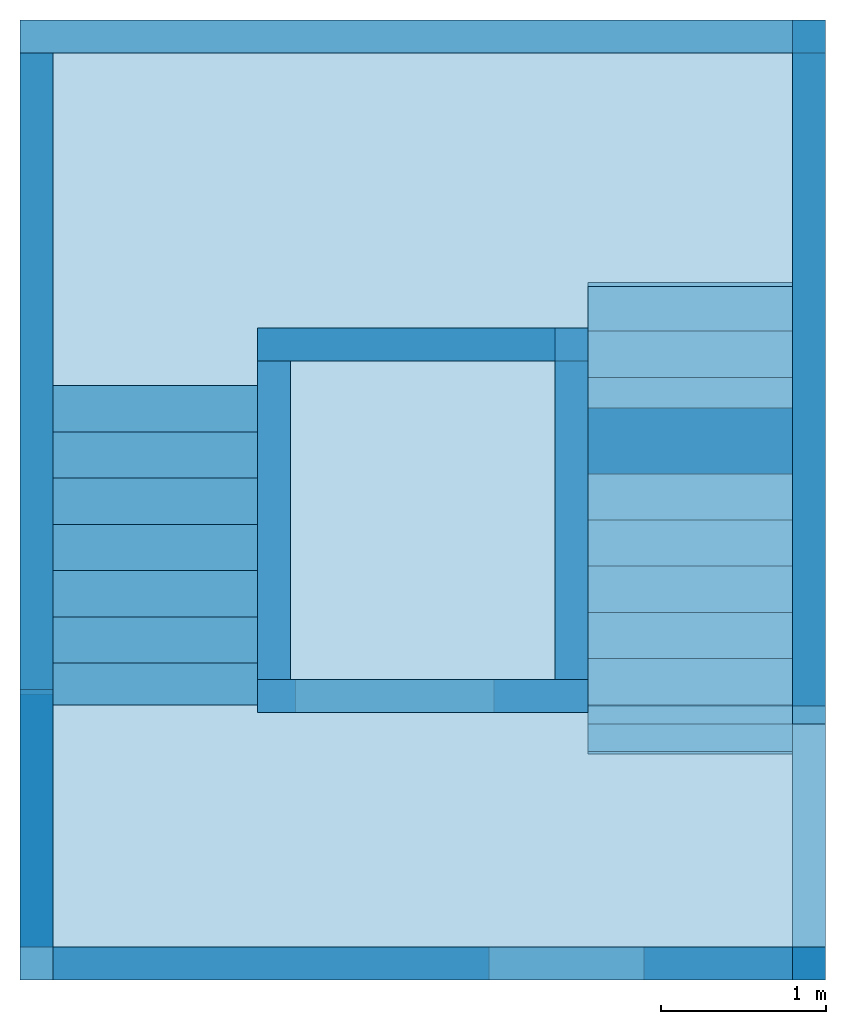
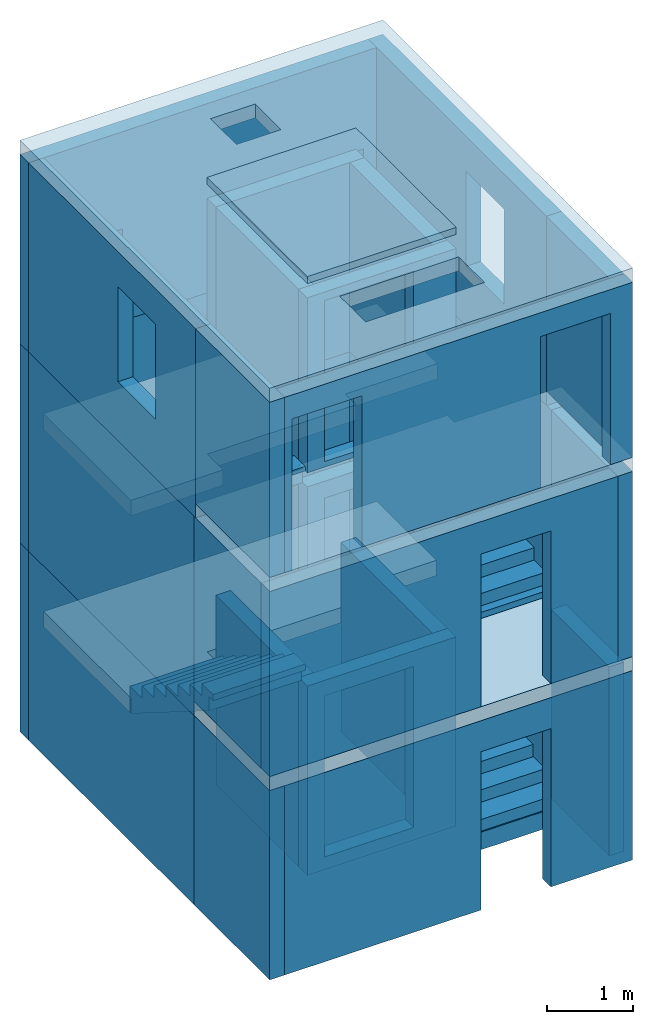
# One storey: 34 walls, 6 slabs, 16 openings.
"""IFC4 building model written with IfcOpenShell, lengths in metres."""

import ifcopenshell
import ifcopenshell.guid

model = None  # the IFC model being written
_history = None  # IfcOwnerHistory: only IFC2X3 demands one
_inside = {}  # id of a spatial element -> (the spatial element, [elements in it])
_under = {}  # id of a project, library or spatial element -> (it, [spatial elements below it])
_declared = {}  # id of a project -> (the project, [libraries it declares])
_typed = {}  # id of a type object -> (the type object, [elements of that type])
_made_of = {}  # id of a material, layer set ... -> (it, [elements and type objects made of it])


def new_model(schema):
    """Start an empty IFC model of exactly this schema.

    Asked for "IFC4X3", IfcOpenShell would pick the latest addendum, in which some entities
    have other attributes; the version numbers below select the first issue.
    IFC2X3 requires an IfcOwnerHistory on every rooted entity: one is made here for all.
    """
    global model, _history
    if schema == "IFC4X3":
        model = ifcopenshell.file(schema_version=(4, 3, 0, 0))
    else:
        model = ifcopenshell.file(schema=schema)
    _inside.clear()
    _under.clear()
    _declared.clear()
    _typed.clear()
    _made_of.clear()
    _history = None
    if model.schema == "IFC2X3":
        org = make("IfcOrganization", Name="unknown")
        user = make(
            "IfcPersonAndOrganization",
            ThePerson=make("IfcPerson", FamilyName="unknown"),
            TheOrganization=org,
        )
        app = make(
            "IfcApplication",
            ApplicationDeveloper=org,
            Version="unknown",
            ApplicationFullName="unknown",
            ApplicationIdentifier="unknown",
        )
        _history = make(
            "IfcOwnerHistory",
            OwningUser=user,
            OwningApplication=app,
            ChangeAction="ADDED",
            CreationDate=0,
        )
    return model


def make(cls, **values):
    """One entity of the class cls with the attributes given. An attribute that is None is left unset."""
    return model.create_entity(
        cls, **{name: value for name, value in values.items() if value is not None}
    )


def entity(cls, *values):
    """Any entity or typed value of the class cls, its attributes in the order of the schema. None: left unset."""
    e = model.create_entity(cls)
    for i, value in enumerate(values):
        if value is not None:
            e[i] = value
    return e


def rooted(cls, **values):
    """An entity with a GlobalId (a new one), such as an element, a storey or a relation."""
    return make(cls, GlobalId=ifcopenshell.guid.new(), OwnerHistory=_history, **values)


def si_unit(unit_type, name, prefix=None):
    """IfcSIUnit, for example si_unit("LENGTHUNIT", "METRE", prefix="MILLI")."""
    return make("IfcSIUnit", UnitType=unit_type, Prefix=prefix, Name=name)


def converted_unit(unit_type, name, factor, base, dimensions=None, offset=None):
    """IfcConversionBasedUnit, such as the inch: factor (a typed value) times the base unit."""
    return make(
        "IfcConversionBasedUnit"
        if offset is None
        else "IfcConversionBasedUnitWithOffset",
        ConversionOffset=offset,
        Dimensions=None
        if dimensions is None
        else entity("IfcDimensionalExponents", *dimensions),
        UnitType=unit_type,
        Name=name,
        ConversionFactor=make(
            "IfcMeasureWithUnit", ValueComponent=factor, UnitComponent=base
        ),
    )


def derived_unit(unit_type, elements):
    """IfcDerivedUnit: a product of units, each with its exponent."""
    return make(
        "IfcDerivedUnit",
        Elements=[
            make("IfcDerivedUnitElement", Unit=unit, Exponent=power)
            for unit, power in elements
        ],
        UnitType=unit_type,
    )


def assignment(units):
    """IfcUnitAssignment: the units of a project."""
    return None if units is None else make("IfcUnitAssignment", Units=units)


def point(xyz):
    """IfcCartesianPoint."""
    return None if xyz is None else make("IfcCartesianPoint", Coordinates=xyz)


def direction(xyz):
    """IfcDirection."""
    return None if xyz is None else make("IfcDirection", DirectionRatios=xyz)


def frame(location, z_axis=None, x_axis=None):
    """IfcAxis2Placement3D, a coordinate frame: its origin and axes. An axis left out is left unset."""
    return make(
        "IfcAxis2Placement3D",
        Location=point(location),
        Axis=direction(z_axis),
        RefDirection=direction(x_axis),
    )


def frame_2d(location, x_axis=None):
    """IfcAxis2Placement2D, a coordinate frame in the plane: its origin and x axis."""
    return make(
        "IfcAxis2Placement2D", Location=point(location), RefDirection=direction(x_axis)
    )


def origin():
    """The frame at (0, 0, 0) with its axes left unset."""
    return frame((0.0, 0.0, 0.0))


def origin_with_axes():
    """The frame at (0, 0, 0) with the z axis (0, 0, 1) and the x axis (1, 0, 0) written out."""
    return frame((0.0, 0.0, 0.0), z_axis=(0.0, 0.0, 1.0), x_axis=(1.0, 0.0, 0.0))


def place(relative_to, where):
    """IfcLocalPlacement: puts the frame where relative to a parent placement (None: the world)."""
    return make(
        "IfcLocalPlacement", PlacementRelTo=relative_to, RelativePlacement=where
    )


def context(
    kind, dimensions, precision=None, world=None, true_north=None, identifier=None
):
    """IfcGeometricRepresentationContext, for example the 3D "Model" context."""
    return make(
        "IfcGeometricRepresentationContext",
        ContextIdentifier=identifier,
        ContextType=kind,
        CoordinateSpaceDimension=dimensions,
        Precision=precision,
        WorldCoordinateSystem=world,
        TrueNorth=true_north,
    )


def subcontext(parent, identifier, kind, view, scale=None):
    """IfcGeometricRepresentationSubContext, for example "Body" below "Model"."""
    return make(
        "IfcGeometricRepresentationSubContext",
        ContextIdentifier=identifier,
        ContextType=kind,
        ParentContext=parent,
        TargetScale=scale,
        TargetView=view,
    )


def project(units=None, contexts=None):
    """IfcProject with its units and contexts."""
    return rooted(
        "IfcProject",
        Name="project",
        RepresentationContexts=contexts,
        UnitsInContext=assignment(units),
    )


def spatial(cls, under=None, at=None, **own):
    """A site, building, storey or space (cls), placed at a placement, below another one or the project."""
    s = rooted(cls, ObjectPlacement=at, **own)
    if under is not None:
        _under.setdefault(under.id(), (under, []))[1].append(s)
    return s


def polyline(points):
    """IfcPolyline through the points."""
    return make("IfcPolyline", Points=[point(p) for p in points])


def profile(cls, at=None, kind="AREA", **sizes):
    """A parametric profile (cls). Its sizes go by their IFC names, for example OverallWidth=200.0."""
    return make(cls, ProfileType=kind, Position=at, **sizes)


def rectangle(**sizes):
    """IfcRectangleProfileDef."""
    return profile("IfcRectangleProfileDef", **sizes)


def outline(outer, holes=None, kind="AREA"):
    """IfcArbitraryClosedProfileDef: a profile drawn as a closed curve; with holes, ...WithVoids."""
    if holes is None:
        return make("IfcArbitraryClosedProfileDef", ProfileType=kind, OuterCurve=outer)
    return make(
        "IfcArbitraryProfileDefWithVoids",
        ProfileType=kind,
        OuterCurve=outer,
        InnerCurves=holes,
    )


def extrude(swept, where, along, depth):
    """IfcExtrudedAreaSolid: the profile swept, set in the frame where, extruded along a direction by depth."""
    return make(
        "IfcExtrudedAreaSolid",
        SweptArea=swept,
        Position=where,
        ExtrudedDirection=direction(along),
        Depth=depth,
    )


def shape(context_of_items, identifier, shape_type, items):
    """IfcShapeRepresentation: the items that make up one representation, for example the "Body"."""
    return make(
        "IfcShapeRepresentation",
        ContextOfItems=context_of_items,
        RepresentationIdentifier=identifier,
        RepresentationType=shape_type,
        Items=items,
    )


def material(Name=None, Category=None):
    """IfcMaterial."""
    return make("IfcMaterial", Name=Name, Category=Category)


def layer(
    of_material, thickness, ventilated=None, Name=None, Category=None, Priority=None
):
    """IfcMaterialLayer: one layer of a wall or slab, of a material (None: an air gap)."""
    return make(
        "IfcMaterialLayer",
        Material=of_material,
        LayerThickness=thickness,
        IsVentilated=ventilated,
        Name=Name,
        Category=Category,
        Priority=Priority,
    )


def layer_set(layers, Name=None):
    """IfcMaterialLayerSet."""
    return make("IfcMaterialLayerSet", MaterialLayers=layers, LayerSetName=Name)


def layer_usage(for_layer_set, set_direction, sense, offset, extent=None):
    """IfcMaterialLayerSetUsage: how a layer set lies in its element."""
    return make(
        "IfcMaterialLayerSetUsage",
        ForLayerSet=for_layer_set,
        LayerSetDirection=set_direction,
        DirectionSense=sense,
        OffsetFromReferenceLine=offset,
        ReferenceExtent=extent,
    )


def made_of(thing, what):
    """Note that an element or type object is made of a material, layer set ...; save() writes the relation."""
    if what is not None:
        _made_of.setdefault(what.id(), (what, []))[1].append(thing)
    return thing


def element(
    cls,
    number,
    at=None,
    inside=None,
    cuts=None,
    type_object=None,
    material=None,
    context=None,
    identifier="Body",
    shape_type=None,
    held_by="IfcProductDefinitionShape",
    body=None,
    shapes=None,
    **own,
):
    """One element of the class cls, such as IfcWall. Its Tag is "e" and its number.

    at: its placement. inside: the storey or other place that contains it. cuts: it is an
    opening in that element (IfcRelVoidsElement). A single representation is given by context,
    identifier, shape_type and body (its items); several are given by shapes. held_by: the class
    of the entity that holds the representations. save() writes the other relations.
    """
    e = rooted(cls, Tag="e%d" % number, ObjectPlacement=at, **own)
    if body is not None:
        shapes = [shape(context, identifier, shape_type, body)]
    if shapes is not None:
        e.Representation = make(held_by, Representations=shapes)
    if inside is not None:
        _inside.setdefault(inside.id(), (inside, []))[1].append(e)
    if cuts is not None:
        rooted(
            "IfcRelVoidsElement", RelatingBuildingElement=cuts, RelatedOpeningElement=e
        )
    if type_object is not None:
        _typed.setdefault(type_object.id(), (type_object, []))[1].append(e)
    return made_of(e, material)


def aggregate(whole, parts):
    """IfcRelAggregates: a whole, such as a stair, and the parts it consists of."""
    return rooted("IfcRelAggregates", RelatingObject=whole, RelatedObjects=parts)


def save(model, path):
    """Write the relations noted so far, then the file.

    IfcRelAggregates (storeys below a building ...), IfcRelContainedInSpatialStructure (elements
    in a storey), IfcRelDefinesByType, IfcRelAssociatesMaterial and IfcRelDeclares: one each for
    every whole, place, type object, material and project.
    """
    for whole, parts in _under.values():
        aggregate(whole, parts)
    for where, things in _inside.values():
        rooted(
            "IfcRelContainedInSpatialStructure",
            RelatedElements=things,
            RelatingStructure=where,
        )
    for kind, things in _typed.values():
        rooted("IfcRelDefinesByType", RelatedObjects=things, RelatingType=kind)
    for what, things in _made_of.values():
        rooted("IfcRelAssociatesMaterial", RelatedObjects=things, RelatingMaterial=what)
    for by, libraries in _declared.values():
        rooted("IfcRelDeclares", RelatingContext=by, RelatedDefinitions=libraries)
    model.write(path)


model = new_model("IFC4")

# Units and contexts
model_context = context("Model", 3, precision=1e-05, world=origin())
body_context = subcontext(model_context, "Body", "Model", "MODEL_VIEW")
ifc_project = project(units=[si_unit("LENGTHUNIT", "METRE"), si_unit("AREAUNIT", "SQUARE_METRE"), si_unit("VOLUMEUNIT", "CUBIC_METRE"), si_unit("MASSUNIT", "GRAM", prefix="KILO"), converted_unit("PLANEANGLEUNIT", "DEGREE", entity("IfcPlaneAngleMeasure", 0.0174532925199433), si_unit("PLANEANGLEUNIT", "RADIAN"), dimensions=[0, 0, 0, 0, 0, 0, 0]), derived_unit("THERMALTRANSMITTANCEUNIT", [(si_unit("POWERUNIT", "WATT"), 1), (si_unit("THERMODYNAMICTEMPERATUREUNIT", "KELVIN"), -1), (si_unit("LENGTHUNIT", "METRE"), -2)]), derived_unit("VOLUMETRICFLOWRATEUNIT", [(si_unit("LENGTHUNIT", "METRE"), 3), (converted_unit("TIMEUNIT", "hour", entity("IfcTimeMeasure", 3600.0), si_unit("TIMEUNIT", "SECOND"), dimensions=[0, 0, 1, 0, 0, 0, 0]), -1), (si_unit("LENGTHUNIT", "METRE"), -1)])], contexts=[model_context])

# Site, building, storey
site_placement = place(None, origin())
site = spatial("IfcSite", under=ifc_project, at=site_placement, Name="Überbauung", CompositionType="ELEMENT")
building_placement = place(site_placement, origin())
building = spatial("IfcBuilding", under=site, at=building_placement, Name="Gebäude A", CompositionType="ELEMENT")
storey_placement = place(building_placement, origin())
storey = spatial("IfcBuildingStorey", under=building, at=storey_placement, Name="Fundation & Aushub", CompositionType="ELEMENT", Elevation=0.0)

# Slabs
ifc_material_1 = material(Name="Beton")
slab_1_placement = place(storey_placement, frame((10.0117697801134, 6.07350369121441, 2.52)))
element("IfcSlab", 1, at=slab_1_placement, inside=storey, material=ifc_material_1, PredefinedType="FLOOR", context=body_context, shape_type="SweptSolid", body=[
    extrude(outline(polyline([(3.44, 1.82), (1.44, 1.82), (1.44, 1.75835), (0.0, 1.75835), (0.0, 0.0), (4.88, 0.0), (4.88, 1.55), (3.44, 1.55), (3.44, 1.82)])), origin_with_axes(), (0.0, 0.0, 1.0), 0.2),
])
ifc_material_2 = material(Name="Beton")
slab_2_placement = place(storey_placement, frame((10.2117697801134, 9.66845369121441, 1.375)))
element("IfcSlab", 2, at=slab_2_placement, inside=storey, material=ifc_material_2, PredefinedType="FLOOR", context=body_context, shape_type="SweptSolid", body=[
    extrude(outline(polyline([(3.24, 0.62874), (4.48, 0.62874), (4.48, 2.02005), (0.0, 2.02005), (0.0, 0.0), (1.24, 0.0), (1.24, 0.355049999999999), (3.24, 0.355049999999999), (3.24, 0.62874)])), origin_with_axes(), (0.0, 0.0, 1.0), 0.22),
])
ifc_material_3 = material(Name="Beton")
slab_3_placement = place(storey_placement, frame((10.2117697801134, 9.65345369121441, 4.185)))
element("IfcSlab", 3, at=slab_3_placement, inside=storey, material=ifc_material_3, PredefinedType="FLOOR", context=body_context, shape_type="SweptSolid", body=[
    extrude(outline(polyline([(0.0, 2.03505), (0.0, 0.0), (1.24, 0.0), (1.24, 0.370049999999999), (3.24, 0.370049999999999), (3.24, 0.620049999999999), (4.48, 0.620049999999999), (4.48, 2.03505), (0.0, 2.03505)])), origin_with_axes(), (0.0, 0.0, 1.0), 0.22),
])
ifc_material_4 = material(Name="Beton")
slab_4_placement = place(storey_placement, frame((10.0117697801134, 6.07350369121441, 5.35)))
element("IfcSlab", 4, at=slab_4_placement, inside=storey, material=ifc_material_4, PredefinedType="FLOOR", context=body_context, shape_type="SweptSolid", body=[
    extrude(outline(polyline([(0.0, 1.72654), (0.0, 0.0), (4.88, 0.0), (4.88, 1.66), (3.44, 1.66), (3.44, 1.82), (1.44, 1.82), (1.44, 1.72654), (0.0, 1.72654)])), origin_with_axes(), (0.0, 0.0, 1.0), 0.2),
])
ifc_material_5 = material(Name="Beton")
slab_5_placement = place(storey_placement, frame((10.0117697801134, 6.07350369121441, 8.04)))
element("IfcSlab", 5, at=slab_5_placement, inside=storey, material=ifc_material_5, PredefinedType="FLOOR", context=body_context, shape_type="SweptSolid", body=[
    extrude(outline(polyline([(4.88, 5.815), (0.0, 5.815), (0.0, 0.0), (4.88, 0.0), (4.88, 5.815)]), holes=[polyline([(3.24, 1.82), (1.64, 1.82), (1.64, 3.75), (3.24, 3.75), (3.24, 1.82)]), polyline([(3.24, 0.61), (1.64, 0.61), (1.64, 1.21), (3.24, 1.21), (3.24, 0.61)]), polyline([(2.14, 4.4825), (2.14, 5.0825), (2.74, 5.0825), (2.74, 4.4825), (2.14, 4.4825)])]), origin_with_axes(), (0.0, 0.0, 1.0), 0.2),
])
ifc_material_6 = material(Name="Beton")
slab_6_placement = place(storey_placement, frame((11.4517697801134, 7.69350369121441, 8.14)))
element("IfcSlab", 6, at=slab_6_placement, inside=storey, material=ifc_material_6, PredefinedType="FLOOR", context=body_context, shape_type="SweptSolid", body=[
    extrude(rectangle(XDim=2.33, YDim=2.0, at=frame_2d((1.0, -1.165), x_axis=(0.0, -1.0))), frame((0.0, 2.33, 0.0), z_axis=(0.0, 0.0, 1.0), x_axis=(1.0, 0.0, 0.0)), (0.0, 0.0, 1.0), 0.2),
])

# Walls
ifc_material_7 = material(Name="Beton")
ifc_layer_1 = layer(ifc_material_7, 0.2)
ifc_layer_set_1 = layer_set([ifc_layer_1])
ifc_layer_usage_1 = layer_usage(ifc_layer_set_1, "AXIS2", "POSITIVE", 0.0)
wall_1_placement = place(storey_placement, frame((10.0117697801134, 7.83185369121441, -0.17), z_axis=(0.0, 0.0, 1.0), x_axis=(0.0, -1.0, 0.0)))
element("IfcWall", 7, at=wall_1_placement, inside=storey, material=ifc_layer_usage_1, context=body_context, shape_type="SweptSolid", body=[
    extrude(rectangle(XDim=1.75835, YDim=0.2, at=frame_2d((0.879175, 0.1), x_axis=(1.0, 0.0))), origin_with_axes(), (0.0, 0.0, 1.0), 2.69),
])
ifc_material_8 = material(Name="Beton")
ifc_layer_2 = layer(ifc_material_8, 0.2)
ifc_layer_set_2 = layer_set([ifc_layer_2])
ifc_layer_usage_2 = layer_usage(ifc_layer_set_2, "AXIS2", "POSITIVE", 0.0)
wall_2_placement = place(storey_placement, frame((10.0117697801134, 11.6885036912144, -0.17), z_axis=(0.0, 0.0, 1.0), x_axis=(0.0, -1.0, 0.0)))
element("IfcWall", 8, at=wall_2_placement, inside=storey, material=ifc_layer_usage_2, context=body_context, shape_type="SweptSolid", body=[
    extrude(rectangle(XDim=3.85665, YDim=0.2, at=frame_2d((1.928325, 0.1), x_axis=(1.0, 0.0))), origin_with_axes(), (0.0, 0.0, 1.0), 2.69),
])

# Wall, opening
ifc_material_9 = material(Name="Beton")
ifc_layer_3 = layer(ifc_material_9, 0.2)
ifc_layer_set_3 = layer_set([ifc_layer_3])
ifc_layer_usage_3 = layer_usage(ifc_layer_set_3, "AXIS2", "POSITIVE", 0.0)
wall_3_placement = place(storey_placement, frame((10.2117697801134, 6.07350369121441, -0.17)))
wall_3 = element("IfcWall", 9, at=wall_3_placement, inside=storey, material=ifc_layer_usage_3, context=body_context, shape_type="SweptSolid", body=[
    extrude(rectangle(XDim=4.68, YDim=0.2, at=frame_2d((2.34, 0.1), x_axis=(1.0, 0.0))), origin_with_axes(), (0.0, 0.0, 1.0), 2.69),
])
opening_1_placement = place(wall_3_placement, frame((2.64, 0.0, 0.0), z_axis=(0.0, 1.0, 0.0), x_axis=(0.0, 0.0, 1.0)))
element("IfcOpeningElement", 10, at=opening_1_placement, cuts=wall_3, Name="Türöffnung", ObjectType="Opening", context=body_context, shape_type="SweptSolid", body=[
    extrude(outline(polyline([(0.0, 0.94), (2.25, 0.94), (2.25, 0.0), (0.0, 0.0), (0.0, 0.94)])), origin_with_axes(), (0.0, 0.0, 1.0), 0.2),
])

# Walls
ifc_material_10 = material(Name="Beton")
ifc_layer_4 = layer(ifc_material_10, 0.2)
ifc_layer_set_4 = layer_set([ifc_layer_4])
ifc_layer_usage_4 = layer_usage(ifc_layer_set_4, "AXIS2", "POSITIVE", 0.0)
wall_4_placement = place(storey_placement, frame((14.8917697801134, 7.62350369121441, -0.17), z_axis=(0.0, 0.0, 1.0), x_axis=(0.0, 1.0, 0.0)))
element("IfcWall", 11, at=wall_4_placement, inside=storey, material=ifc_layer_usage_4, context=body_context, shape_type="SweptSolid", body=[
    extrude(rectangle(XDim=4.065, YDim=0.2, at=frame_2d((2.0325, 0.1), x_axis=(1.0, 0.0))), origin_with_axes(), (0.0, 0.0, 1.0), 2.69),
])
ifc_material_11 = material(Name="Beton")
ifc_layer_5 = layer(ifc_material_11, 0.2)
ifc_layer_set_5 = layer_set([ifc_layer_5])
ifc_layer_usage_5 = layer_usage(ifc_layer_set_5, "AXIS2", "POSITIVE", 0.0)
wall_5_placement = place(storey_placement, frame((14.8917697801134, 6.27350369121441, -0.17), z_axis=(0.0, 0.0, 1.0), x_axis=(0.0, 1.0, 0.0)))
element("IfcWall", 12, at=wall_5_placement, inside=storey, material=ifc_layer_usage_5, context=body_context, shape_type="SweptSolid", body=[
    extrude(rectangle(XDim=1.35, YDim=0.2, at=frame_2d((0.675, 0.1), x_axis=(1.0, 0.0))), origin_with_axes(), (0.0, 0.0, 1.0), 2.69),
])

# Wall, openings
ifc_material_12 = material(Name="Beton")
ifc_layer_6 = layer(ifc_material_12, 0.2)
ifc_layer_set_6 = layer_set([ifc_layer_6])
ifc_layer_usage_6 = layer_usage(ifc_layer_set_6, "AXIS2", "POSITIVE", 0.0)
wall_6_placement = place(storey_placement, frame((10.0117697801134, 11.6885036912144, -0.17)))
wall_6 = element("IfcWall", 13, at=wall_6_placement, inside=storey, material=ifc_layer_usage_6, context=body_context, shape_type="SweptSolid", body=[
    extrude(rectangle(XDim=4.88, YDim=0.2, at=frame_2d((2.44, 0.1), x_axis=(1.0, 0.0))), origin_with_axes(), (0.0, 0.0, 1.0), 2.69),
])
opening_2_placement = place(wall_6_placement, frame((1.805, 0.0, 0.0), z_axis=(0.0, 1.0, 0.0), x_axis=(0.0, 0.0, 1.0)))
element("IfcOpeningElement", 14, at=opening_2_placement, cuts=wall_6, Name="Türöffnung", ObjectType="Opening", context=body_context, shape_type="SweptSolid", body=[
    extrude(outline(polyline([(0.0, 1.27), (1.33, 1.27), (1.33, 0.0), (0.0, 0.0), (0.0, 1.27)])), origin_with_axes(), (0.0, 0.0, 1.0), 0.2),
])
opening_3_placement = place(wall_6_placement, frame((3.62, 0.0, 0.0), z_axis=(0.0, 1.0, 0.0), x_axis=(0.0, 0.0, 1.0)))
element("IfcOpeningElement", 15, at=opening_3_placement, cuts=wall_6, Name="Türöffnung", ObjectType="Opening", context=body_context, shape_type="SweptSolid", body=[
    extrude(outline(polyline([(0.0, 0.88), (1.3, 0.88), (1.3, 0.0), (0.0, 0.0), (0.0, 0.88)])), origin_with_axes(), (0.0, 0.0, 1.0), 0.2),
])

# Walls
ifc_material_13 = material(Name="Beton")
ifc_layer_7 = layer(ifc_material_13, 0.2)
ifc_layer_set_7 = layer_set([ifc_layer_7])
ifc_layer_usage_7 = layer_usage(ifc_layer_set_7, "AXIS2", "POSITIVE", 0.0)
wall_7_placement = place(storey_placement, frame((11.4517697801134, 9.82350369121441, -0.17), z_axis=(0.0, 0.0, 1.0), x_axis=(0.0, -1.0, 0.0)))
element("IfcWall", 16, at=wall_7_placement, inside=storey, material=ifc_layer_usage_7, context=body_context, shape_type="SweptSolid", body=[
    extrude(rectangle(XDim=1.93, YDim=0.2, at=frame_2d((0.965, 0.1), x_axis=(1.0, 0.0))), origin_with_axes(), (0.0, 0.0, 1.0), 2.69),
])
ifc_material_14 = material(Name="Beton")
ifc_layer_8 = layer(ifc_material_14, 0.2)
ifc_layer_set_8 = layer_set([ifc_layer_8])
ifc_layer_usage_8 = layer_usage(ifc_layer_set_8, "AXIS2", "POSITIVE", 0.0)
wall_8_placement = place(storey_placement, frame((13.4517697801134, 7.89350369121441, -0.17), z_axis=(0.0, 0.0, 1.0), x_axis=(0.0, 1.0, 0.0)))
element("IfcWall", 17, at=wall_8_placement, inside=storey, material=ifc_layer_usage_8, context=body_context, shape_type="SweptSolid", body=[
    extrude(rectangle(XDim=2.13, YDim=0.2, at=frame_2d((1.065, 0.1), x_axis=(1.0, 0.0))), origin_with_axes(), (0.0, 0.0, 1.0), 2.69),
])

# Wall, opening
ifc_material_15 = material(Name="Beton")
ifc_layer_9 = layer(ifc_material_15, 0.2)
ifc_layer_set_9 = layer_set([ifc_layer_9])
ifc_layer_usage_9 = layer_usage(ifc_layer_set_9, "AXIS2", "POSITIVE", 0.0)
wall_9_placement = place(storey_placement, frame((11.4517697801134, 7.69350369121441, -0.17)))
wall_9 = element("IfcWall", 18, at=wall_9_placement, inside=storey, material=ifc_layer_usage_9, context=body_context, shape_type="SweptSolid", body=[
    extrude(rectangle(XDim=2.0, YDim=0.2, at=frame_2d((1.0, 0.1), x_axis=(1.0, 0.0))), origin_with_axes(), (0.0, 0.0, 1.0), 2.69),
])
opening_4_placement = place(wall_9_placement, frame((0.23, 0.0, 0.18), z_axis=(0.0, 1.0, 0.0), x_axis=(0.0, 0.0, 1.0)))
element("IfcOpeningElement", 19, at=opening_4_placement, cuts=wall_9, Name="Türöffnung", ObjectType="Opening", context=body_context, shape_type="SweptSolid", body=[
    extrude(outline(polyline([(0.0, 1.2), (2.29, 1.2), (2.29, 0.0), (0.0, 0.0), (0.0, 1.2)])), origin_with_axes(), (0.0, 0.0, 1.0), 0.2),
])

ifc_material_16 = material(Name="Beton")
ifc_layer_10 = layer(ifc_material_16, 0.2)
ifc_layer_set_10 = layer_set([ifc_layer_10])
ifc_layer_usage_10 = layer_usage(ifc_layer_set_10, "AXIS2", "POSITIVE", 0.0)
wall_10_placement = place(storey_placement, frame((13.2517697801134, 10.0235036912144, -0.17), z_axis=(0.0, 0.0, 1.0), x_axis=(-1.0, 0.0, 0.0)))
wall_10 = element("IfcWall", 20, at=wall_10_placement, inside=storey, material=ifc_layer_usage_10, context=body_context, shape_type="SweptSolid", body=[
    extrude(rectangle(XDim=1.8, YDim=0.2, at=frame_2d((0.9, 0.1), x_axis=(1.0, 0.0))), origin_with_axes(), (0.0, 0.0, 1.0), 2.69),
])
opening_5_placement = place(wall_10_placement, frame((1.57, 0.2, 0.0), z_axis=(0.0, -1.0, 0.0), x_axis=(0.0, 0.0, 1.0)))
element("IfcOpeningElement", 21, at=opening_5_placement, cuts=wall_10, Name="Türöffnung", ObjectType="Opening", context=body_context, shape_type="SweptSolid", body=[
    extrude(outline(polyline([(0.0, 1.2), (1.38, 1.2), (1.38, 0.0), (0.0, 0.0), (0.0, 1.2)])), origin_with_axes(), (0.0, 0.0, 1.0), 0.2),
])

ifc_material_17 = material(Name="Beton")
ifc_layer_11 = layer(ifc_material_17, 0.2)
ifc_layer_set_11 = layer_set([ifc_layer_11])
ifc_layer_usage_11 = layer_usage(ifc_layer_set_11, "AXIS2", "POSITIVE", 0.0)
wall_11_placement = place(storey_placement, frame((11.4517697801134, 7.69350369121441, 2.52)))
wall_11 = element("IfcWall", 22, at=wall_11_placement, inside=storey, material=ifc_layer_usage_11, context=body_context, shape_type="SweptSolid", body=[
    extrude(rectangle(XDim=2.0, YDim=0.2, at=frame_2d((1.0, 0.1), x_axis=(1.0, 0.0))), origin_with_axes(), (0.0, 0.0, 1.0), 2.83),
])
opening_6_placement = place(wall_11_placement, frame((0.23, 0.0, 0.3), z_axis=(0.0, 1.0, 0.0), x_axis=(0.0, 0.0, 1.0)))
element("IfcOpeningElement", 23, at=opening_6_placement, cuts=wall_11, Name="Türöffnung", ObjectType="Opening", context=body_context, shape_type="SweptSolid", body=[
    extrude(outline(polyline([(0.0, 1.2), (2.29, 1.2), (2.29, 0.0), (0.0, 0.0), (0.0, 1.2)])), origin_with_axes(), (0.0, 0.0, 1.0), 0.2),
])

# Wall, openings
ifc_material_18 = material(Name="Beton")
ifc_layer_12 = layer(ifc_material_18, 0.2)
ifc_layer_set_12 = layer_set([ifc_layer_12])
ifc_layer_usage_12 = layer_usage(ifc_layer_set_12, "AXIS2", "POSITIVE", 0.0)
wall_12_placement = place(storey_placement, frame((14.8917697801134, 11.8885036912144, 2.52), z_axis=(0.0, 0.0, 1.0), x_axis=(-1.0, 0.0, 0.0)))
wall_12 = element("IfcWall", 24, at=wall_12_placement, inside=storey, material=ifc_layer_usage_12, context=body_context, shape_type="SweptSolid", body=[
    extrude(rectangle(XDim=4.88, YDim=0.2, at=frame_2d((2.44, 0.1), x_axis=(1.0, 0.0))), origin_with_axes(), (0.0, 0.0, 1.0), 2.83),
])
opening_7_placement = place(wall_12_placement, frame((1.26, 0.2, 0.0), z_axis=(0.0, -1.0, 0.0), x_axis=(0.0, 0.0, 1.0)))
element("IfcOpeningElement", 25, at=opening_7_placement, cuts=wall_12, Name="Türöffnung", ObjectType="Opening", context=body_context, shape_type="SweptSolid", body=[
    extrude(outline(polyline([(0.0, 0.88), (1.33, 0.88), (1.33, 0.0), (0.0, 0.0), (0.0, 0.88)])), origin_with_axes(), (0.0, 0.0, 1.0), 0.2),
])
opening_8_placement = place(wall_12_placement, frame((4.5, 0.2, 0.0), z_axis=(0.0, -1.0, 0.0), x_axis=(0.0, 0.0, 1.0)))
element("IfcOpeningElement", 26, at=opening_8_placement, cuts=wall_12, Name="Türöffnung", ObjectType="Opening", context=body_context, shape_type="SweptSolid", body=[
    extrude(outline(polyline([(0.0, 0.88), (1.33, 0.88), (1.33, 0.0), (0.0, 0.0), (0.0, 0.88)])), origin_with_axes(), (0.0, 0.0, 1.0), 0.2),
])

# Walls
ifc_material_19 = material(Name="Beton")
ifc_layer_13 = layer(ifc_material_19, 0.2)
ifc_layer_set_13 = layer_set([ifc_layer_13])
ifc_layer_usage_13 = layer_usage(ifc_layer_set_13, "AXIS2", "POSITIVE", 0.0)
wall_13_placement = place(storey_placement, frame((13.4517697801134, 10.0235036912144, 2.52), z_axis=(0.0, 0.0, 1.0), x_axis=(-1.0, 0.0, 0.0)))
element("IfcWall", 27, at=wall_13_placement, inside=storey, material=ifc_layer_usage_13, context=body_context, shape_type="SweptSolid", body=[
    extrude(rectangle(XDim=2.0, YDim=0.2, at=frame_2d((1.0, 0.1), x_axis=(1.0, 0.0))), origin_with_axes(), (0.0, 0.0, 1.0), 2.83),
])
ifc_material_20 = material(Name="Beton")
ifc_layer_14 = layer(ifc_material_20, 0.2)
ifc_layer_set_14 = layer_set([ifc_layer_14])
ifc_layer_usage_14 = layer_usage(ifc_layer_set_14, "AXIS2", "POSITIVE", 0.0)
wall_14_placement = place(storey_placement, frame((11.4517697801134, 9.82350369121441, 2.52), z_axis=(0.0, 0.0, 1.0), x_axis=(0.0, -1.0, 0.0)))
element("IfcWall", 28, at=wall_14_placement, inside=storey, material=ifc_layer_usage_14, context=body_context, shape_type="SweptSolid", body=[
    extrude(rectangle(XDim=1.93, YDim=0.2, at=frame_2d((0.965, 0.1), x_axis=(1.0, 0.0))), origin_with_axes(), (0.0, 0.0, 1.0), 2.83),
])
ifc_material_21 = material(Name="Beton")
ifc_layer_15 = layer(ifc_material_21, 0.2)
ifc_layer_set_15 = layer_set([ifc_layer_15])
ifc_layer_usage_15 = layer_usage(ifc_layer_set_15, "AXIS2", "POSITIVE", 0.0)
wall_15_placement = place(storey_placement, frame((13.4517697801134, 7.89350369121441, 2.52), z_axis=(0.0, 0.0, 1.0), x_axis=(0.0, 1.0, 0.0)))
element("IfcWall", 29, at=wall_15_placement, inside=storey, material=ifc_layer_usage_15, context=body_context, shape_type="SweptSolid", body=[
    extrude(rectangle(XDim=1.93, YDim=0.2, at=frame_2d((0.965, 0.1), x_axis=(1.0, 0.0))), origin_with_axes(), (0.0, 0.0, 1.0), 2.83),
])

# Wall, opening
ifc_material_22 = material(Name="Beton")
ifc_layer_16 = layer(ifc_material_22, 0.2)
ifc_layer_set_16 = layer_set([ifc_layer_16])
ifc_layer_usage_16 = layer_usage(ifc_layer_set_16, "AXIS2", "POSITIVE", 0.0)
wall_16_placement = place(storey_placement, frame((10.0117697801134, 6.07350369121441, 2.72)))
wall_16 = element("IfcWall", 30, at=wall_16_placement, inside=storey, material=ifc_layer_usage_16, context=body_context, shape_type="SweptSolid", body=[
    extrude(rectangle(XDim=4.68, YDim=0.2, at=frame_2d((2.34, 0.1), x_axis=(1.0, 0.0))), origin_with_axes(), (0.0, 0.0, 1.0), 2.63),
])
opening_9_placement = place(wall_16_placement, frame((3.78, 0.2, 0.0), z_axis=(0.0, -1.0, 0.0), x_axis=(0.0, 0.0, 1.0)))
element("IfcOpeningElement", 31, at=opening_9_placement, cuts=wall_16, Name="Türöffnung", ObjectType="Opening", context=body_context, shape_type="SweptSolid", body=[
    extrude(outline(polyline([(0.0, 0.94), (2.17, 0.94), (2.17, 0.0), (0.0, 0.0), (0.0, 0.94)])), origin_with_axes(), (0.0, 0.0, 1.0), 0.2),
])

# Walls
ifc_material_23 = material(Name="Beton")
ifc_layer_17 = layer(ifc_material_23, 0.2)
ifc_layer_set_17 = layer_set([ifc_layer_17])
ifc_layer_usage_17 = layer_usage(ifc_layer_set_17, "AXIS2", "POSITIVE", 0.0)
wall_17_placement = place(storey_placement, frame((10.0117697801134, 11.6885036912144, 2.52), z_axis=(0.0, 0.0, 1.0), x_axis=(0.0, -1.0, 0.0)))
element("IfcWall", 32, at=wall_17_placement, inside=storey, material=ifc_layer_usage_17, context=body_context, shape_type="SweptSolid", body=[
    extrude(rectangle(XDim=3.85665, YDim=0.2, at=frame_2d((1.928325, 0.1), x_axis=(1.0, 0.0))), origin_with_axes(), (0.0, 0.0, 1.0), 2.83),
])
ifc_material_24 = material(Name="Beton")
ifc_layer_18 = layer(ifc_material_24, 0.2)
ifc_layer_set_18 = layer_set([ifc_layer_18])
ifc_layer_usage_18 = layer_usage(ifc_layer_set_18, "AXIS2", "POSITIVE", 0.0)
wall_18_placement = place(storey_placement, frame((10.0117697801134, 7.83185369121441, 2.72), z_axis=(0.0, 0.0, 1.0), x_axis=(0.0, -1.0, 0.0)))
element("IfcWall", 33, at=wall_18_placement, inside=storey, material=ifc_layer_usage_18, context=body_context, shape_type="SweptSolid", body=[
    extrude(rectangle(XDim=1.55835, YDim=0.2, at=frame_2d((0.779175, 0.1), x_axis=(1.0, 0.0))), origin_with_axes(), (0.0, 0.0, 1.0), 2.63),
])
ifc_material_25 = material(Name="Beton")
ifc_layer_19 = layer(ifc_material_25, 0.2)
ifc_layer_set_19 = layer_set([ifc_layer_19])
ifc_layer_usage_19 = layer_usage(ifc_layer_set_19, "AXIS2", "POSITIVE", 0.0)
wall_19_placement = place(storey_placement, frame((14.8917697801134, 7.62350369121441, 2.52), z_axis=(0.0, 0.0, 1.0), x_axis=(0.0, 1.0, 0.0)))
element("IfcWall", 34, at=wall_19_placement, inside=storey, material=ifc_layer_usage_19, context=body_context, shape_type="SweptSolid", body=[
    extrude(rectangle(XDim=4.065, YDim=0.2, at=frame_2d((2.0325, 0.1), x_axis=(1.0, 0.0))), origin_with_axes(), (0.0, 0.0, 1.0), 2.83),
])
ifc_material_26 = material(Name="Beton")
ifc_layer_20 = layer(ifc_material_26, 0.2)
ifc_layer_set_20 = layer_set([ifc_layer_20])
ifc_layer_usage_20 = layer_usage(ifc_layer_set_20, "AXIS2", "POSITIVE", 0.0)
wall_20_placement = place(storey_placement, frame((14.8917697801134, 6.07350369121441, 2.72), z_axis=(0.0, 0.0, 1.0), x_axis=(0.0, 1.0, 0.0)))
element("IfcWall", 35, at=wall_20_placement, inside=storey, material=ifc_layer_usage_20, context=body_context, shape_type="SweptSolid", body=[
    extrude(rectangle(XDim=1.55, YDim=0.2, at=frame_2d((0.775, 0.1), x_axis=(1.0, 0.0))), origin_with_axes(), (0.0, 0.0, 1.0), 2.63),
])

# Wall, openings
ifc_material_27 = material(Name="Beton")
ifc_layer_21 = layer(ifc_material_27, 0.2)
ifc_layer_set_21 = layer_set([ifc_layer_21])
ifc_layer_usage_21 = layer_usage(ifc_layer_set_21, "AXIS2", "POSITIVE", 0.0)
wall_21_placement = place(storey_placement, frame((10.0117697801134, 11.6885036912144, 5.35)))
wall_21 = element("IfcWall", 36, at=wall_21_placement, inside=storey, material=ifc_layer_usage_21, context=body_context, shape_type="SweptSolid", body=[
    extrude(rectangle(XDim=4.68, YDim=0.2, at=frame_2d((2.34, 0.1), x_axis=(1.0, 0.0))), origin_with_axes(), (0.0, 0.0, 1.0), 2.69),
])
opening_10_placement = place(wall_21_placement, frame((4.5, 0.2, 0.0), z_axis=(0.0, -1.0, 0.0), x_axis=(0.0, 0.0, 1.0)))
element("IfcOpeningElement", 37, at=opening_10_placement, cuts=wall_21, Name="Fensteröffnung", ObjectType="Opening", context=body_context, shape_type="SweptSolid", body=[
    extrude(outline(polyline([(0.0, 0.88), (1.31, 0.88), (1.31, 0.0), (0.0, 0.0), (0.0, 0.88)])), origin_with_axes(), (0.0, 0.0, 1.0), 0.2),
])
opening_11_placement = place(wall_21_placement, frame((1.26, 0.2, 0.0), z_axis=(0.0, -1.0, 0.0), x_axis=(0.0, 0.0, 1.0)))
element("IfcOpeningElement", 38, at=opening_11_placement, cuts=wall_21, Name="Fensteröffnung", ObjectType="Opening", context=body_context, shape_type="SweptSolid", body=[
    extrude(outline(polyline([(0.0, 0.88), (1.31, 0.88), (1.31, 0.0), (0.0, 0.0), (0.0, 0.88)])), origin_with_axes(), (0.0, 0.0, 1.0), 0.2),
])

# Walls
ifc_material_28 = material(Name="Beton")
ifc_layer_22 = layer(ifc_material_28, 0.2)
ifc_layer_set_22 = layer_set([ifc_layer_22])
ifc_layer_usage_22 = layer_usage(ifc_layer_set_22, "AXIS2", "POSITIVE", 0.0)
wall_22_placement = place(storey_placement, frame((11.4517697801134, 9.82350369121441, 5.35)))
element("IfcWall", 39, at=wall_22_placement, inside=storey, material=ifc_layer_usage_22, context=body_context, shape_type="SweptSolid", body=[
    extrude(rectangle(XDim=2.0, YDim=0.2, at=frame_2d((1.0, 0.1), x_axis=(1.0, 0.0))), origin_with_axes(), (0.0, 0.0, 1.0), 2.69),
])
ifc_material_29 = material(Name="Beton")
ifc_layer_23 = layer(ifc_material_29, 0.2)
ifc_layer_set_23 = layer_set([ifc_layer_23])
ifc_layer_usage_23 = layer_usage(ifc_layer_set_23, "AXIS2", "POSITIVE", 0.0)
wall_23_placement = place(storey_placement, frame((10.0117697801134, 7.80004369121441, 5.55), z_axis=(0.0, 0.0, 1.0), x_axis=(0.0, -1.0, 0.0)))
element("IfcWall", 40, at=wall_23_placement, inside=storey, material=ifc_layer_usage_23, context=body_context, shape_type="SweptSolid", body=[
    extrude(rectangle(XDim=1.72654, YDim=0.2, at=frame_2d((0.86327, 0.1), x_axis=(1.0, 0.0))), origin_with_axes(), (0.0, 0.0, 1.0), 2.49),
])

# Wall, openings
ifc_material_30 = material(Name="Beton")
ifc_layer_24 = layer(ifc_material_30, 0.2)
ifc_layer_set_24 = layer_set([ifc_layer_24])
ifc_layer_usage_24 = layer_usage(ifc_layer_set_24, "AXIS2", "POSITIVE", 0.0)
wall_24_placement = place(storey_placement, frame((10.2117697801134, 6.07350369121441, 5.55)))
wall_24 = element("IfcWall", 41, at=wall_24_placement, inside=storey, material=ifc_layer_usage_24, context=body_context, shape_type="SweptSolid", body=[
    extrude(rectangle(XDim=4.68, YDim=0.2, at=frame_2d((2.34, 0.1), x_axis=(1.0, 0.0))), origin_with_axes(), (0.0, 0.0, 1.0), 2.49),
])
opening_12_placement = place(wall_24_placement, frame((0.1, 0.0, -5.55), z_axis=(0.0, 1.0, 0.0), x_axis=(0.0, 0.0, 1.0)))
element("IfcOpeningElement", 42, at=opening_12_placement, cuts=wall_24, Name="Türöffnung", ObjectType="Opening", context=body_context, shape_type="SweptSolid", body=[
    extrude(outline(polyline([(0.0, 0.94), (7.7, 0.94), (7.7, 0.0), (0.0, 0.0), (0.0, 0.94)])), origin_with_axes(), (0.0, 0.0, 1.0), 0.2),
])
opening_13_placement = place(wall_24_placement, frame((4.38, 0.2, -5.55), z_axis=(0.0, -1.0, 0.0), x_axis=(0.0, 0.0, 1.0)))
element("IfcOpeningElement", 43, at=opening_13_placement, cuts=wall_24, Name="Türöffnung", ObjectType="Opening", context=body_context, shape_type="SweptSolid", body=[
    extrude(outline(polyline([(0.0, 0.94), (7.7, 0.94), (7.7, 0.0), (0.0, 0.0), (0.0, 0.94)])), origin_with_axes(), (0.0, 0.0, 1.0), 0.2),
])

# Wall
ifc_material_31 = material(Name="Beton")
ifc_layer_25 = layer(ifc_material_31, 0.2)
ifc_layer_set_25 = layer_set([ifc_layer_25])
ifc_layer_usage_25 = layer_usage(ifc_layer_set_25, "AXIS2", "POSITIVE", 0.0)
wall_25_placement = place(storey_placement, frame((14.8917697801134, 6.27350369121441, 5.55), z_axis=(0.0, 0.0, 1.0), x_axis=(0.0, 1.0, 0.0)))
element("IfcWall", 44, at=wall_25_placement, inside=storey, material=ifc_layer_usage_25, context=body_context, shape_type="SweptSolid", body=[
    extrude(rectangle(XDim=1.46, YDim=0.2, at=frame_2d((0.729999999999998, 0.1), x_axis=(1.0, 0.0))), origin_with_axes(), (0.0, 0.0, 1.0), 2.49),
])

# Wall, opening
ifc_material_32 = material(Name="Beton")
ifc_layer_26 = layer(ifc_material_32, 0.2)
ifc_layer_set_26 = layer_set([ifc_layer_26])
ifc_layer_usage_26 = layer_usage(ifc_layer_set_26, "AXIS2", "POSITIVE", 0.0)
wall_26_placement = place(storey_placement, frame((13.4517697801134, 7.89350369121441, 5.55), z_axis=(0.0, 0.0, 1.0), x_axis=(-1.0, 0.0, 0.0)))
wall_26 = element("IfcWall", 45, at=wall_26_placement, inside=storey, material=ifc_layer_usage_26, context=body_context, shape_type="SweptSolid", body=[
    extrude(rectangle(XDim=2.0, YDim=0.2, at=frame_2d((1.0, 0.1), x_axis=(1.0, 0.0))), origin_with_axes(), (0.0, 0.0, 1.0), 2.49),
])
opening_14_placement = place(wall_26_placement, frame((1.77, 0.2, 0.08), z_axis=(0.0, -1.0, 0.0), x_axis=(0.0, 0.0, 1.0)))
element("IfcOpeningElement", 46, at=opening_14_placement, cuts=wall_26, Name="Türöffnung", ObjectType="Opening", context=body_context, shape_type="SweptSolid", body=[
    extrude(outline(polyline([(0.0, 1.2), (2.29, 1.2), (2.29, 0.0), (0.0, 0.0), (0.0, 1.2)])), origin_with_axes(), (0.0, 0.0, 1.0), 0.2),
])

# Walls
ifc_material_33 = material(Name="Beton")
ifc_layer_27 = layer(ifc_material_33, 0.2)
ifc_layer_set_27 = layer_set([ifc_layer_27])
ifc_layer_usage_27 = layer_usage(ifc_layer_set_27, "AXIS2", "POSITIVE", 0.0)
wall_27_placement = place(storey_placement, frame((13.2517697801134, 9.82350369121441, 5.35), z_axis=(0.0, 0.0, 1.0), x_axis=(0.0, -1.0, 0.0)))
element("IfcWall", 47, at=wall_27_placement, inside=storey, material=ifc_layer_usage_27, context=body_context, shape_type="SweptSolid", body=[
    extrude(rectangle(XDim=1.93, YDim=0.2, at=frame_2d((0.965, 0.1), x_axis=(1.0, 0.0))), origin_with_axes(), (0.0, 0.0, 1.0), 2.69),
])
ifc_material_34 = material(Name="Beton")
ifc_layer_28 = layer(ifc_material_34, 0.2)
ifc_layer_set_28 = layer_set([ifc_layer_28])
ifc_layer_usage_28 = layer_usage(ifc_layer_set_28, "AXIS2", "POSITIVE", 0.0)
wall_28_placement = place(storey_placement, frame((11.6517697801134, 7.89350369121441, 5.35), z_axis=(0.0, 0.0, 1.0), x_axis=(0.0, 1.0, 0.0)))
element("IfcWall", 48, at=wall_28_placement, inside=storey, material=ifc_layer_usage_28, context=body_context, shape_type="SweptSolid", body=[
    extrude(rectangle(XDim=1.93, YDim=0.2, at=frame_2d((0.965, 0.1), x_axis=(1.0, 0.0))), origin_with_axes(), (0.0, 0.0, 1.0), 2.69),
])

# Wall, opening
ifc_material_35 = material(Name="Beton")
ifc_layer_29 = layer(ifc_material_35, 0.2)
ifc_layer_set_29 = layer_set([ifc_layer_29])
ifc_layer_usage_29 = layer_usage(ifc_layer_set_29, "AXIS2", "POSITIVE", 0.0)
wall_29_placement = place(storey_placement, frame((10.0117697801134, 11.6885036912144, 5.35), z_axis=(0.0, 0.0, 1.0), x_axis=(0.0, -1.0, 0.0)))
wall_29 = element("IfcWall", 49, at=wall_29_placement, inside=storey, material=ifc_layer_usage_29, context=body_context, shape_type="SweptSolid", body=[
    extrude(rectangle(XDim=3.88846, YDim=0.2, at=frame_2d((1.94423, 0.1), x_axis=(1.0, 0.0))), origin_with_axes(), (0.0, 0.0, 1.0), 2.69),
])
opening_15_placement = place(wall_29_placement, frame((2.96, 0.2, 0.84), z_axis=(0.0, -1.0, 0.0), x_axis=(0.0, 0.0, 1.0)))
element("IfcOpeningElement", 50, at=opening_15_placement, cuts=wall_29, Name="Fensteröffnung", ObjectType="Opening", context=body_context, shape_type="SweptSolid", body=[
    extrude(outline(polyline([(0.0, 0.88), (1.35, 0.88), (1.35, 0.0), (0.0, 0.0), (0.0, 0.88)])), origin_with_axes(), (0.0, 0.0, 1.0), 0.2),
])

ifc_material_36 = material(Name="Beton")
ifc_layer_30 = layer(ifc_material_36, 0.2)
ifc_layer_set_30 = layer_set([ifc_layer_30])
ifc_layer_usage_30 = layer_usage(ifc_layer_set_30, "AXIS2", "POSITIVE", 0.0)
wall_30_placement = place(storey_placement, frame((14.8917697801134, 7.7335036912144, 5.35), z_axis=(0.0, 0.0, 1.0), x_axis=(0.0, 1.0, 0.0)))
wall_30 = element("IfcWall", 51, at=wall_30_placement, inside=storey, material=ifc_layer_usage_30, context=body_context, shape_type="SweptSolid", body=[
    extrude(rectangle(XDim=4.155, YDim=0.2, at=frame_2d((2.0775, 0.1), x_axis=(1.0, 0.0))), origin_with_axes(), (0.0, 0.0, 1.0), 2.69),
])
opening_16_placement = place(wall_30_placement, frame((0.995, 0.0, 0.84), z_axis=(0.0, 1.0, 0.0), x_axis=(0.0, 0.0, 1.0)))
element("IfcOpeningElement", 52, at=opening_16_placement, cuts=wall_30, Name="Fensteröffnung", ObjectType="Opening", context=body_context, shape_type="SweptSolid", body=[
    extrude(outline(polyline([(0.0, 0.88), (1.35, 0.88), (1.35, 0.0), (0.0, 0.0), (0.0, 0.88)])), origin_with_axes(), (0.0, 0.0, 1.0), 0.2),
])

# Walls
ifc_material_37 = material(Name="Beton")
wall_31_placement = place(storey_placement, frame((11.4517697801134, 9.67350369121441, 1.375), z_axis=(0.0, 0.0, 1.0), x_axis=(-1.0, 0.0, 0.0)))
element("IfcWall", 53, at=wall_31_placement, inside=storey, material=ifc_material_37, context=body_context, shape_type="SweptSolid", body=[
    extrude(outline(polyline([(0.22, 1.935), (0.22, 1.91494501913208), (0.0, 1.91494501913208), (1.14500000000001, 0.0933541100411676), (1.345, 0.0933541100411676), (1.345, 0.0), (1.432, 0.0), (1.432, 0.255), (1.256, 0.255), (1.256, 0.535), (1.08, 0.535), (1.08, 0.815), (0.904, 0.815), (0.904, 1.095), (0.728, 1.095), (0.728, 1.375), (0.552, 1.375), (0.552, 1.655), (0.376, 1.655), (0.376, 1.935), (0.22, 1.935)])), frame((0.0, 1.935, 0.0), z_axis=(1.0, 0.0, 0.0), x_axis=(0.0, 0.0, 1.0)), (0.0, 0.0, 1.0), 1.24),
])
ifc_material_38 = material(Name="Beton")
wall_32_placement = place(storey_placement, frame((14.6917697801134, 10.2971936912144, -0.42), z_axis=(0.0, 0.0, 1.0), x_axis=(-1.0, 0.0, 0.0)))
element("IfcWall", 54, at=wall_32_placement, inside=storey, material=ifc_material_38, context=body_context, shape_type="SweptSolid", body=[
    extrude(outline(polyline([(0.415, 0.0169904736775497), (0.415, 0.32199047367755), (0.591, 0.32199047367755), (0.591, 0.60199047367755), (0.767, 0.60199047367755), (0.767, 0.88199047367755), (0.943, 0.88199047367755), (0.943, 1.16199047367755), (1.119, 1.16199047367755), (1.119, 1.44199047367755), (1.295, 1.44199047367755), (1.295, 1.72199047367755), (1.471, 1.72199047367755), (1.471, 2.00199047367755), (1.647, 2.00199047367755), (1.647, 2.28199047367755), (1.823, 2.28199047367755), (1.823, 2.56199047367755), (1.999, 2.56199047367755), (1.999, 2.83199047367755), (2.015, 2.83199047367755), (2.015, 2.85568181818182), (1.795, 2.85568181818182), (0.0, 0.0), (0.25, 0.0), (0.25, 0.0169904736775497), (0.415, 0.0169904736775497)])), frame((0.0, 2.85568181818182, 0.0), z_axis=(1.0, 0.0, 0.0), x_axis=(0.0, 0.0, 1.0)), (0.0, 0.0, 1.0), 1.24),
])
ifc_material_39 = material(Name="Beton")
wall_33_placement = place(storey_placement, frame((11.4517697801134, 9.67350369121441, 4.185), z_axis=(0.0, 0.0, 1.0), x_axis=(-1.0, 0.0, 0.0)))
element("IfcWall", 55, at=wall_33_placement, inside=storey, material=ifc_material_39, context=body_context, shape_type="SweptSolid", body=[
    extrude(outline(polyline([(0.22, 1.935), (0.22, 1.91494501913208), (0.0, 1.91494501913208), (1.165, 0.0615359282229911), (1.365, 0.0615359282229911), (1.365, 0.0), (1.432, 0.0), (1.432, 0.255), (1.256, 0.255), (1.256, 0.535), (1.08, 0.535), (1.08, 0.815), (0.904, 0.815), (0.904, 1.095), (0.728, 1.095), (0.728, 1.375), (0.552, 1.375), (0.552, 1.655), (0.376, 1.655), (0.376, 1.935), (0.22, 1.935)])), frame((0.0, 1.935, 0.0), z_axis=(1.0, 0.0, 0.0), x_axis=(0.0, 0.0, 1.0)), (0.0, 0.0, 1.0), 1.24),
])
ifc_material_40 = material(Name="Beton")
wall_34_placement = place(storey_placement, frame((14.6917697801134, 10.2735036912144, 2.52), z_axis=(0.0, 0.0, 1.0), x_axis=(-1.0, 0.0, 0.0)))
element("IfcWall", 56, at=wall_34_placement, inside=storey, material=ifc_material_40, context=body_context, shape_type="SweptSolid", body=[
    extrude(outline(polyline([(0.461, 0.115172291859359), (0.461, 0.395172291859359), (0.637, 0.395172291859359), (0.637, 0.675172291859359), (0.813, 0.675172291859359), (0.813, 0.955172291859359), (0.989, 0.955172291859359), (0.989, 1.23517229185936), (1.165, 1.23517229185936), (1.165, 1.51517229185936), (1.341, 1.51517229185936), (1.341, 1.79517229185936), (1.517, 1.79517229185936), (1.517, 2.07517229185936), (1.693, 2.07517229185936), (1.693, 2.35517229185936), (1.869, 2.35517229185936), (1.869, 2.62517229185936), (1.885, 2.62517229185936), (1.885, 2.64886363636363), (1.665, 2.64886363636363), (0.0, 0.0), (0.285, 0.0), (0.285, 0.115172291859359), (0.461, 0.115172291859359)])), frame((0.0, 2.64886363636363, 0.0), z_axis=(1.0, 0.0, 0.0), x_axis=(0.0, 0.0, 1.0)), (0.0, 0.0, 1.0), 1.24),
])

save(model, "model.ifc")
